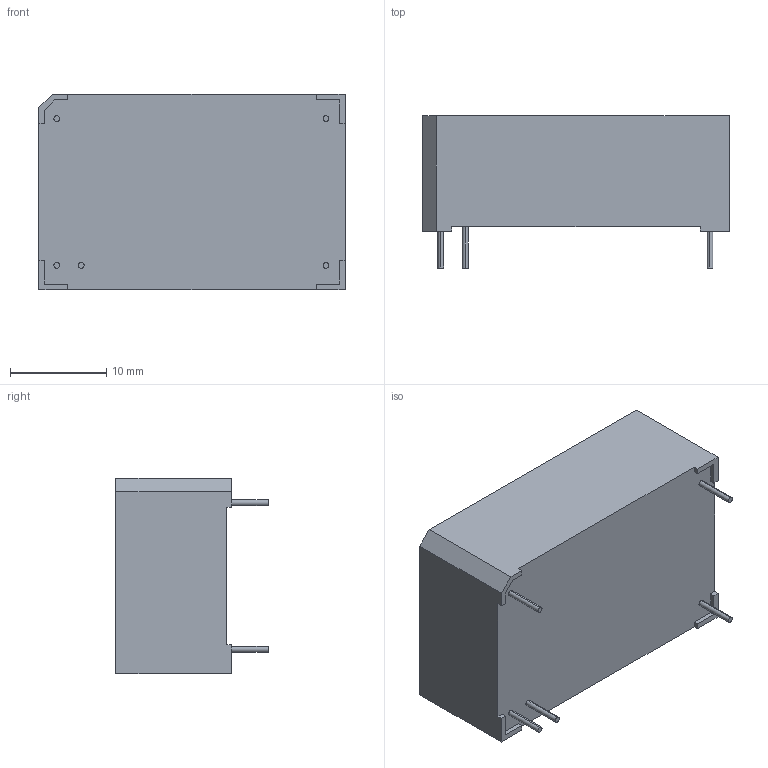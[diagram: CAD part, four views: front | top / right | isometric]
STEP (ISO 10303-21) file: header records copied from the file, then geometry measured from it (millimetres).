
FILE_DESCRIPTION (( 'STEP AP203' ), '1' );
FILE_NAME ('THB 6 Single Output.STEP', '2020-11-13T08:10:29', ( '' ), ( '' ), 'SwSTEP 2.0', 'SolidWorks 2020', '' );
FILE_SCHEMA (( 'CONFIG_CONTROL_DESIGN' ));
Length unit declared in the file: millimetre
Products named in the file (1): THB 6 Single Output
Bounding box: 31.8 x 15.8 x 20.3 mm (x, y, z)
Volume: 7424.8 mm3; surface area: 2544.6 mm2
Topology: 6 solids, 6 shells, 48 faces, 108 edges, 72 vertices
Faces by surface type: plane 38, cylinder 10
Entity records: 1399 total; most frequent: CARTESIAN_POINT 229, DIRECTION 226, ORIENTED_EDGE 216, EDGE_CURVE 108, LINE 88, VECTOR 88, VERTEX_POINT 72, AXIS2_PLACEMENT_3D 69
